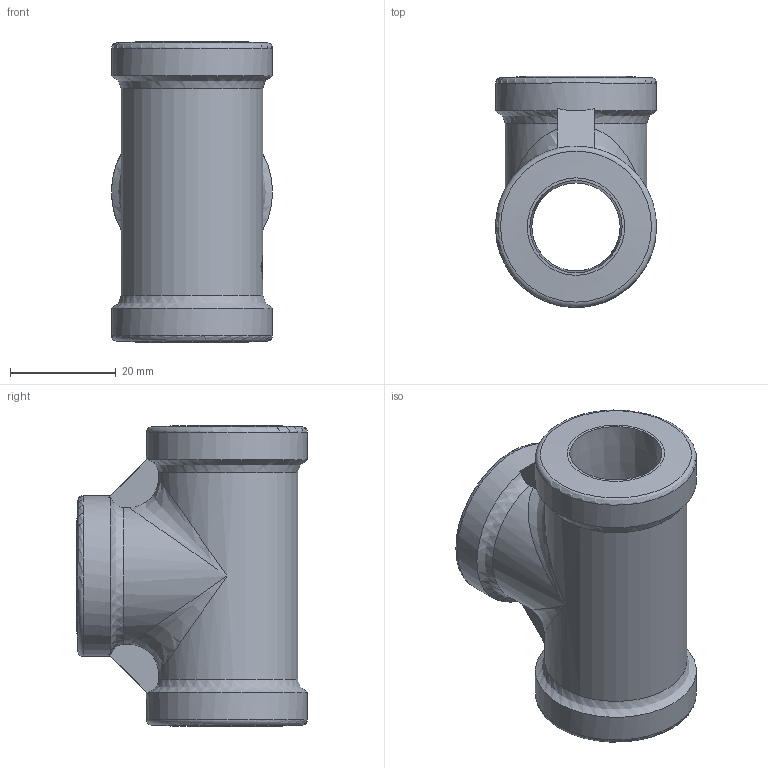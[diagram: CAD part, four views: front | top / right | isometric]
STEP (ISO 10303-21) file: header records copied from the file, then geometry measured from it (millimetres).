
FILE_DESCRIPTION((''),'2;1');
FILE_NAME('P:\Fastrack\53909_CRANE\Crane\Fig.161 Tee\New 0.50 inch\161-0.50.stp','2009-09-16T11:31:29',('btaylor'),(''),'Autodesk Inventor 2008','Autodesk Inventor 2008','');
FILE_SCHEMA(('AUTOMOTIVE_DESIGN { 1 0 10303 214 1 1 1 1 }'));
Length unit declared in the file: millimetre
Products named in the file (1): 161-0.50
Bounding box: 30.4 x 43.6 x 56.8 mm (x, y, z)
Volume: 24061.1 mm3; surface area: 11823.5 mm2
Topology: 1 solids, 1 shells, 65 faces, 172 edges, 103 vertices
Faces by surface type: bspline 25, plane 19, cylinder 12, cone 6, torus 3
Full cylindrical faces by diameter (mm): 30.4 x3
Entity records: 2985 total; most frequent: CARTESIAN_POINT 1578, ORIENTED_EDGE 282, DIRECTION 262, EDGE_CURVE 141, AXIS2_PLACEMENT_3D 112, VERTEX_POINT 95, EDGE_LOOP 86, FACE_OUTER_BOUND 65
